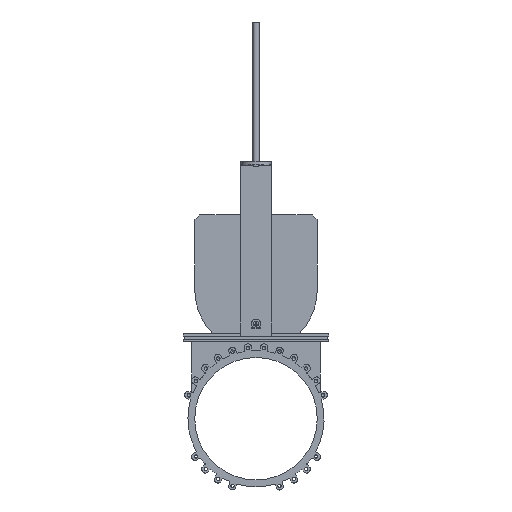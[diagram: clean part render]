
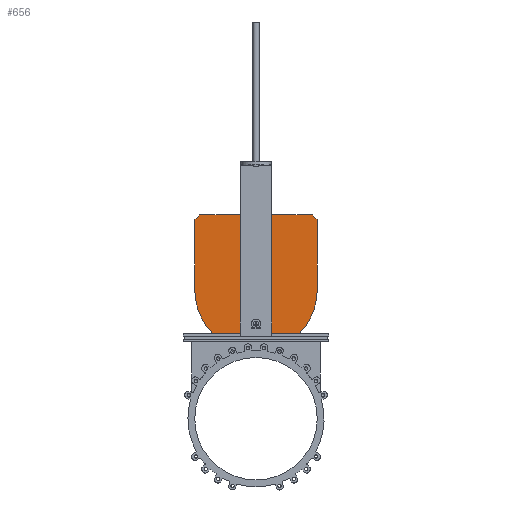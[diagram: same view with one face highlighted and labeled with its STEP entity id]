
A CAD part, front view. The second image highlights one B-rep face of the part: STEP entity #656.
In plain terms, the highlighted planar face has unit normal (0, -1, 0).
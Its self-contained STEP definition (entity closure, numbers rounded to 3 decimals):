
#656=ADVANCED_FACE('',(#4248),#4250,.T.);
#4248=FACE_BOUND('',#4249,.T.);
#4249=EDGE_LOOP('',(#7227,#7228,#7229,#7230,#7231,#7232,#7233,#7234,#7235,#7236,
#7237,#7238));
#4250=PLANE('',#4251);
#4251=AXIS2_PLACEMENT_3D('',#4252,#4253,#4254);
#4252=CARTESIAN_POINT('',(0.,-7.,0.));
#4253=DIRECTION('',(0.,-1.,0.));
#4254=DIRECTION('',(1.,0.,0.));
#7227=ORIENTED_EDGE('',*,*,#9151,.F.);
#7228=ORIENTED_EDGE('',*,*,#9183,.T.);
#7229=ORIENTED_EDGE('',*,*,#9184,.T.);
#7230=ORIENTED_EDGE('',*,*,#9185,.F.);
#7231=ORIENTED_EDGE('',*,*,#9186,.T.);
#7232=ORIENTED_EDGE('',*,*,#9187,.F.);
#7233=ORIENTED_EDGE('',*,*,#9188,.F.);
#7234=ORIENTED_EDGE('',*,*,#9189,.F.);
#7235=ORIENTED_EDGE('',*,*,#9190,.T.);
#7236=ORIENTED_EDGE('',*,*,#9191,.F.);
#7237=ORIENTED_EDGE('',*,*,#9192,.T.);
#7238=ORIENTED_EDGE('',*,*,#9193,.T.);
#9151=EDGE_CURVE('',#10325,#10327,#10328,.T.);
#9183=EDGE_CURVE('',#10325,#10387,#10389,.T.);
#9184=EDGE_CURVE('',#10387,#10390,#10391,.T.);
#9185=EDGE_CURVE('',#10392,#10390,#10393,.F.);
#9186=EDGE_CURVE('',#10392,#10394,#10395,.T.);
#9187=EDGE_CURVE('',#10396,#10394,#10397,.T.);
#9188=EDGE_CURVE('',#10398,#10396,#10399,.F.);
#9189=EDGE_CURVE('',#10400,#10398,#10401,.T.);
#9190=EDGE_CURVE('',#10400,#10402,#10403,.T.);
#9191=EDGE_CURVE('',#10404,#10402,#10405,.F.);
#9192=EDGE_CURVE('',#10404,#10406,#10407,.T.);
#9193=EDGE_CURVE('',#10406,#10327,#10408,.T.);
#10325=VERTEX_POINT('',#12489);
#10327=VERTEX_POINT('',#12493);
#10328=LINE('',#12494,#12495);
#10387=VERTEX_POINT('',#12631);
#10389=CIRCLE('',#12635,500.);
#10390=VERTEX_POINT('',#12639);
#10391=LINE('',#12640,#12641);
#10392=VERTEX_POINT('',#12643);
#10393=LINE('',#12644,#12645);
#10394=VERTEX_POINT('',#12647);
#10395=LINE('',#12648,#12649);
#10396=VERTEX_POINT('',#12651);
#10397=LINE('',#12652,#12653);
#10398=VERTEX_POINT('',#12655);
#10399=LINE('',#12656,#12657);
#10400=VERTEX_POINT('',#12659);
#10401=LINE('',#12660,#12661);
#10402=VERTEX_POINT('',#12663);
#10403=LINE('',#12664,#12665);
#10404=VERTEX_POINT('',#12667);
#10405=LINE('',#12668,#12669);
#10406=VERTEX_POINT('',#12671);
#10407=LINE('',#12672,#12673);
#10408=CIRCLE('',#12675,500.);
#12489=CARTESIAN_POINT('',(352.101,-7.,695.));
#12493=CARTESIAN_POINT('',(-352.101,-7.,695.));
#12494=CARTESIAN_POINT('',(352.101,-7.,695.));
#12495=VECTOR('',#12496,1.);
#12496=DIRECTION('',(-1.,0.,0.));
#12631=CARTESIAN_POINT('',(500.,-7.,1050.));
#12635=AXIS2_PLACEMENT_3D('',#12636,#12637,#12638);
#12636=CARTESIAN_POINT('',(0.,-7.,1050.));
#12637=DIRECTION('',(0.,-1.,0.));
#12638=DIRECTION('',(0.704,0.,-0.71));
#12639=CARTESIAN_POINT('',(500.,-7.,1625.));
#12640=CARTESIAN_POINT('',(500.,-7.,1050.));
#12641=VECTOR('',#12642,1.);
#12642=DIRECTION('',(0.,0.,1.));
#12643=CARTESIAN_POINT('',(460.,-7.,1665.));
#12644=CARTESIAN_POINT('',(500.,-7.,1625.));
#12645=VECTOR('',#12646,1.);
#12646=DIRECTION('',(-0.707,0.,0.707));
#12647=CARTESIAN_POINT('',(60.,-7.,1665.));
#12648=CARTESIAN_POINT('',(460.,-7.,1665.));
#12649=VECTOR('',#12650,1.);
#12650=DIRECTION('',(-1.,0.,0.));
#12651=CARTESIAN_POINT('',(60.,-7.,1660.));
#12652=CARTESIAN_POINT('',(60.,-7.,1660.));
#12653=VECTOR('',#12654,1.);
#12654=DIRECTION('',(0.,0.,1.));
#12655=CARTESIAN_POINT('',(-60.,-7.,1660.));
#12656=CARTESIAN_POINT('',(60.,-7.,1660.));
#12657=VECTOR('',#12658,1.);
#12658=DIRECTION('',(-1.,0.,0.));
#12659=CARTESIAN_POINT('',(-60.,-7.,1665.));
#12660=CARTESIAN_POINT('',(-60.,-7.,1665.));
#12661=VECTOR('',#12662,1.);
#12662=DIRECTION('',(0.,0.,-1.));
#12663=CARTESIAN_POINT('',(-460.,-7.,1665.));
#12664=CARTESIAN_POINT('',(-60.,-7.,1665.));
#12665=VECTOR('',#12666,1.);
#12666=DIRECTION('',(-1.,0.,0.));
#12667=CARTESIAN_POINT('',(-500.,-7.,1625.));
#12668=CARTESIAN_POINT('',(-460.,-7.,1665.));
#12669=VECTOR('',#12670,1.);
#12670=DIRECTION('',(-0.707,0.,-0.707));
#12671=CARTESIAN_POINT('',(-500.,-7.,1050.));
#12672=CARTESIAN_POINT('',(-500.,-7.,1625.));
#12673=VECTOR('',#12674,1.);
#12674=DIRECTION('',(0.,0.,-1.));
#12675=AXIS2_PLACEMENT_3D('',#12676,#12677,#12678);
#12676=CARTESIAN_POINT('',(0.,-7.,1050.));
#12677=DIRECTION('',(0.,-1.,0.));
#12678=DIRECTION('',(-1.,0.,0.));
